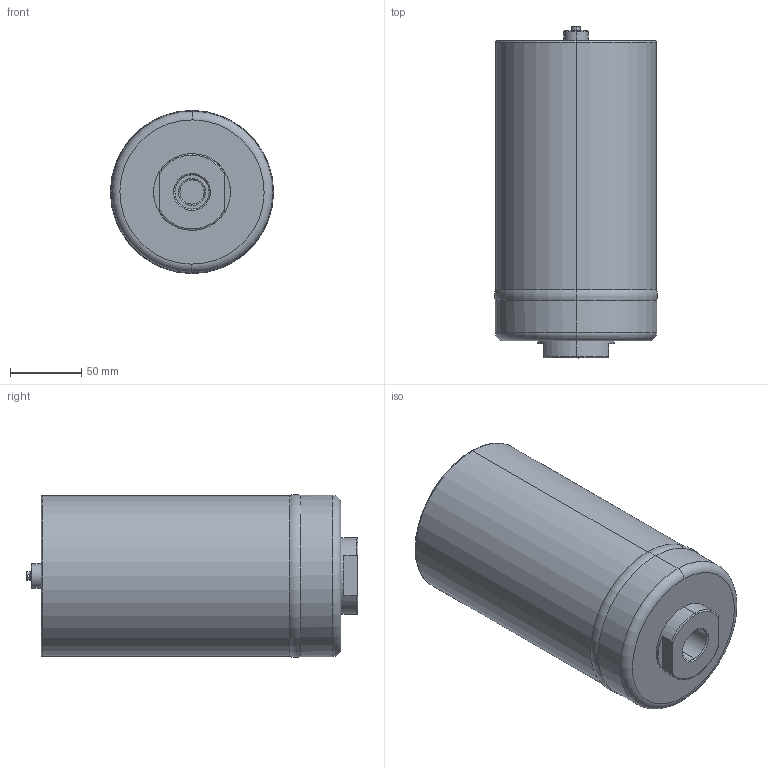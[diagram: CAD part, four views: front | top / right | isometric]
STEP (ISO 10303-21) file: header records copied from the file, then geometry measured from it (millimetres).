
FILE_DESCRIPTION (( 'STEP AP214' ), '1' );
FILE_NAME ('U010A11X1-AI.STEP', '2025-05-28T10:04:29', ( '' ), ( '' ), 'SwSTEP 2.0', 'SolidWorks 2024', '' );
FILE_SCHEMA (( 'AUTOMOTIVE_DESIGN' ));
Length unit declared in the file: millimetre
Products named in the file (1): U010A11X1-AI
Bounding box: 114.75 x 233.53 x 114.75 mm (x, y, z)
Volume: 2030548.2 mm3; surface area: 115422.1 mm2
Topology: 7 solids, 7 shells, 232 faces, 507 edges, 300 vertices
Faces by surface type: plane 88, cylinder 68, torus 43, cone 30, sphere 3
Entity records: 6554 total; most frequent: CARTESIAN_POINT 1249, DIRECTION 1211, ORIENTED_EDGE 996, AXIS2_PLACEMENT_3D 502, EDGE_CURVE 498, VERTEX_POINT 300, CIRCLE 269, EDGE_LOOP 266
